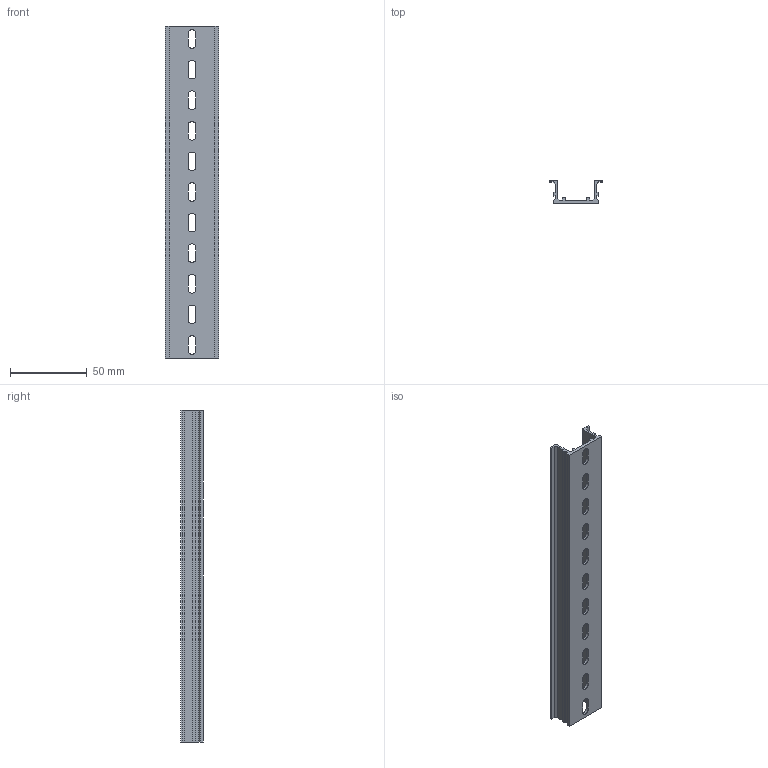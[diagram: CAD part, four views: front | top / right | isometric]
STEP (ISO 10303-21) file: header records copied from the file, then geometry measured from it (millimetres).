
FILE_DESCRIPTION(/* description */ (''),/* implementation_level */ '2;1');
FILE_NAME(/* name */ '22649-(TKB KD-11)HP 3D.stp',/* time_stamp */ '2024-12-05T13:31:17+09:00',/* author */ ('usercadg104'),/* organization */ (''),/* preprocessor_version */ 'ST-DEVELOPER v19.2',/* originating_system */ 'Autodesk Inventor 2023',/* authorisation */ '');
FILE_SCHEMA (('CONFIG_CONTROL_DESIGN'));
Length unit declared in the file: millimetre
Products named in the file (1): TKB KD-3(林)
Bounding box: 35 x 15 x 217 mm (x, y, z)
Volume: 25376.2 mm3; surface area: 29489.1 mm2
Topology: 1 solids, 1 shells, 84 faces, 246 edges, 164 vertices
Faces by surface type: plane 58, cylinder 26
Entity records: 2869 total; most frequent: CARTESIAN_POINT 495, ORIENTED_EDGE 492, DIRECTION 468, EDGE_CURVE 246, LINE 194, VECTOR 194, VERTEX_POINT 164, AXIS2_PLACEMENT_3D 137
